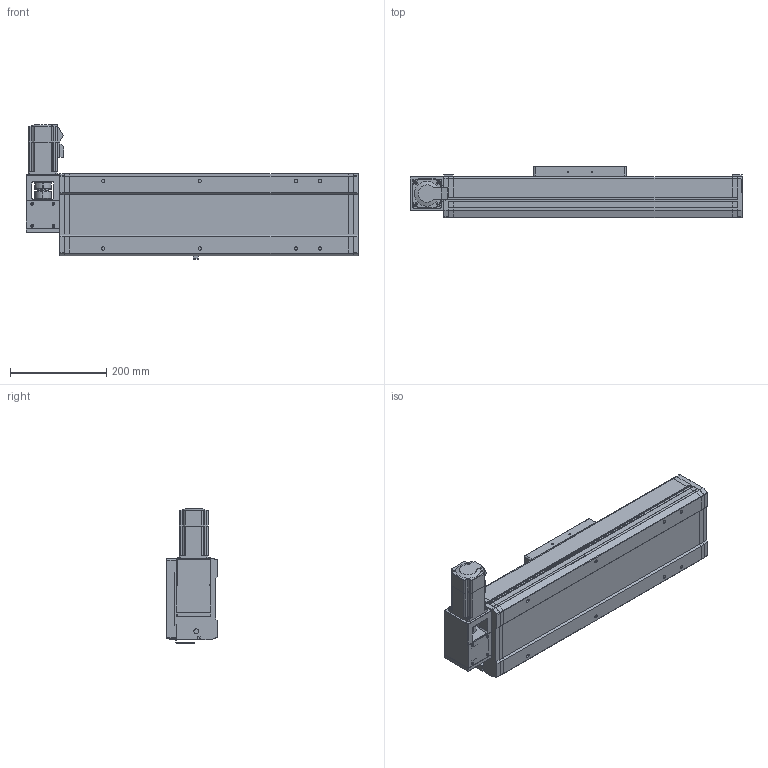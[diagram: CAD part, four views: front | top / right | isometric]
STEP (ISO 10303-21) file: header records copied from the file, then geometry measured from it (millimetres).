
FILE_DESCRIPTION((''),'2;1');
FILE_NAME('170-TZJ3FL-S300_ASM','2015-12-04T',('lenovo'),(''),'PRO/ENGINEER BY PARAMETRIC TECHNOLOGY CORPORATION, 2010280','PRO/ENGINEER BY PARAMETRIC TECHNOLOGY CORPORATION, 2010280','');
FILE_SCHEMA(('CONFIG_CONTROL_DESIGN'));
Length unit declared in the file: millimetre
Products named in the file (5): 170-TJFL-DZ; 170-HK; 170-HDB-01; 170-TZJ3FL-DJZ; 170-TZJ3FL-S300_ASM
Assembly tree (4 placements, depth 2):
  170-TZJ3FL-S300_ASM
    170-TJFL-DZ
    170-HK
    170-HDB-01
    170-TZJ3FL-DJZ
Bounding box: 689 x 107 x 278.5 mm (x, y, z)
Volume: 5666695.5 mm3; surface area: 911944.5 mm2
Topology: 6 solids, 30 shells, 1468 faces, 3997 edges, 2665 vertices
Faces by surface type: plane 788, cylinder 539, cone 113, torus 28
Entity records: 47099 total; most frequent: CARTESIAN_POINT 8413, DIRECTION 8260, ORIENTED_EDGE 7994, EDGE_CURVE 3997, AXIS2_PLACEMENT_3D 2828, VERTEX_POINT 2665, VECTOR 2604, LINE 2604
